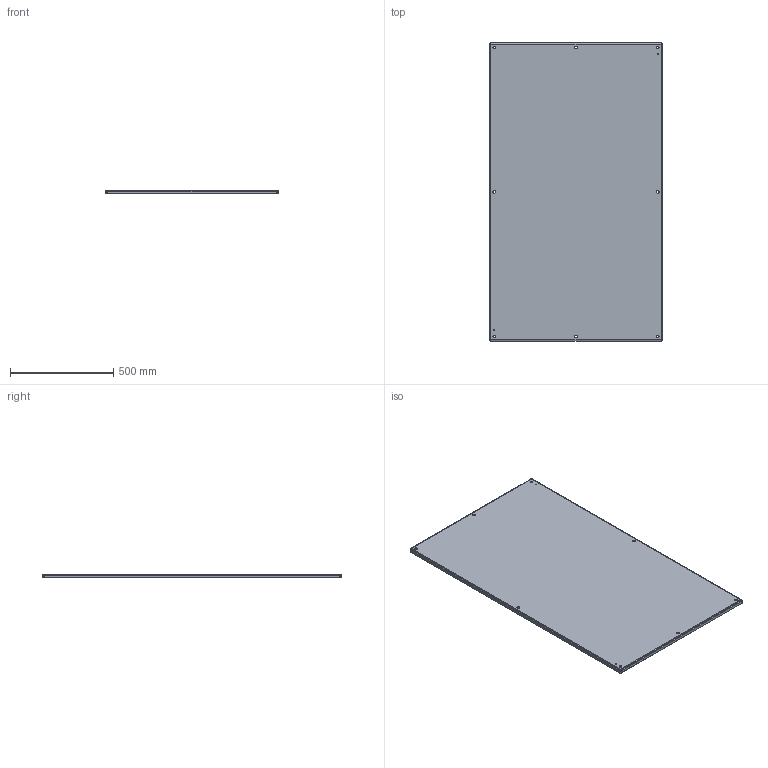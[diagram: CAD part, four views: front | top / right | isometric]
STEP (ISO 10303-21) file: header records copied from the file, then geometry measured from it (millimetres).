
FILE_DESCRIPTION((''),'1');
FILE_NAME('50','2001-04-18T',('jlue'),(''),'PRO/ENGINEER BY PARAMETRIC TECHNOLOGY CORPORATION, 9846','PRO/ENGINEER BY PARAMETRIC TECHNOLOGY CORPORATION, 9846','');
FILE_SCHEMA(('CONFIG_CONTROL_DESIGN'));
Length unit declared in the file: inch
Products named in the file (1): 50
Bounding box: 838.2 x 1447.8 x 19.05 mm (x, y, z)
Surface area: 2577779.5 mm2 (no closed solid volume)
Topology: 0 solids, 0 shells, 43 faces, 238 edges, 244 vertices
Faces by surface type: cylinder 28, plane 11, sphere 4
Entity records: 1230 total; most frequent: DIRECTION 260, COMPOSITE_CURVE_SEGMENT 216, CARTESIAN_POINT 161, TRIMMED_CURVE 118, AXIS2_PLACEMENT_3D 99, VECTOR 62, LINE 62, CIRCLE 56
